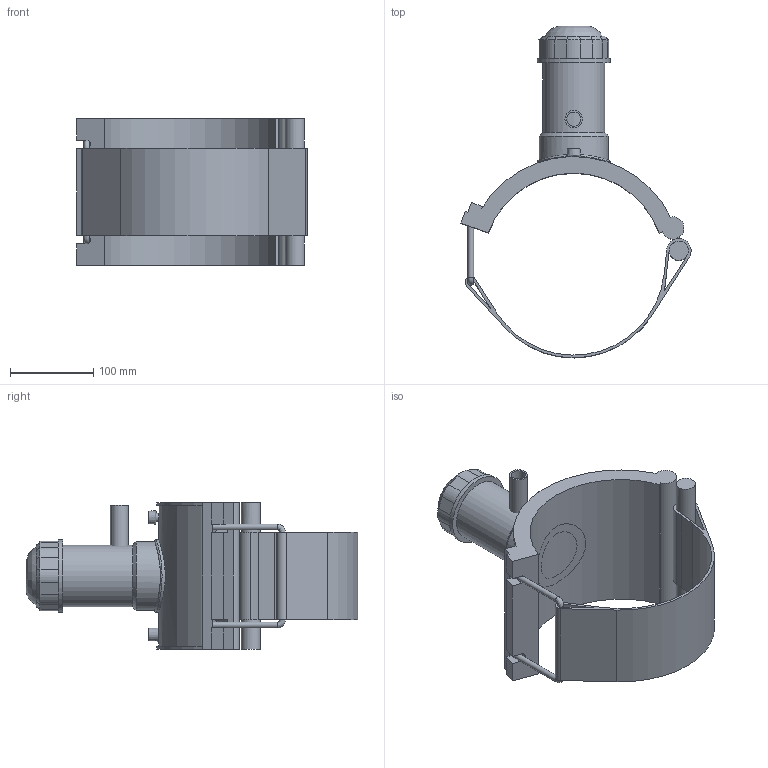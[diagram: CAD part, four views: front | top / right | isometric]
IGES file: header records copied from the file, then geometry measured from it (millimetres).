
Global section: file name: 5963BBP3080005.ipt; native system: Autodesk Inventor 2019; preprocessor: unknown; author: KIM; date: 20210830.101600; units: inch
Bounding box: 276.84 x 399.02 x 176.02 mm (x, y, z)
Volume: 1803367.4 mm3; surface area: 354683.4 mm2
Topology: 4 solids, 4 shells, 124 faces, 304 edges, 194 vertices
Faces by surface type: plane 69, cylinder 28, revolution 15, cone 11, bspline 1
Full cylindrical faces by diameter (mm): 4 x2, 6.998 x2, 21.2 x1, 23.048 x1, 74.358 x1, 83.106 x1, 87.48 x2
